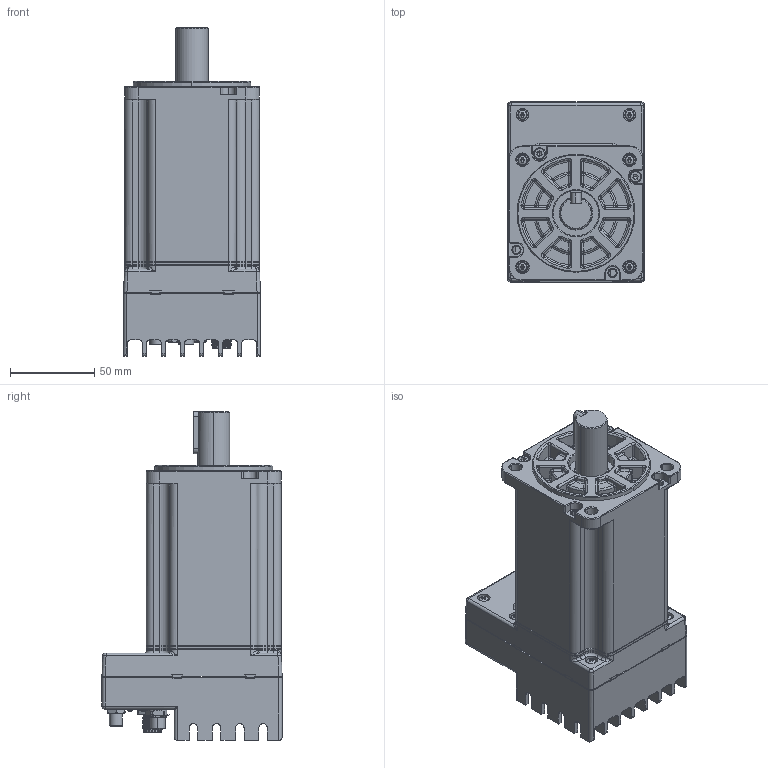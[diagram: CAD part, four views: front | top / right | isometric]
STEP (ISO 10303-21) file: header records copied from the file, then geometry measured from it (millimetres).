
FILE_DESCRIPTION (( 'STEP AP214' ), '1' );
FILE_NAME ('IM1-80MX3X5XX20B00.STEP', '2024-01-09T07:52:20', ( '' ), ( '' ), 'SwSTEP 2.0', 'SolidWorks 2020', '' );
FILE_SCHEMA (( 'AUTOMOTIVE_DESIGN' ));
Length unit declared in the file: millimetre
Products named in the file (1): IM1-80MX3X5XX20B00
Bounding box: 81.3 x 107 x 195.25 mm (x, y, z)
Surface area: 87895.8 mm2 (no closed solid volume)
Topology: 0 solids, 72 shells, 1393 faces, 5256 edges, 3860 vertices
Faces by surface type: cylinder 517, plane 503, cone 137, torus 131, bspline 60, sphere 45
Full cylindrical faces by diameter (mm): 0.5 x12, 1.5 x4, 1.6 x1, 7 x2, 7.5 x6, 9.9 x1, 10 x1, 10.7 x2, 13.5 x2, 18 x1
Entity records: 81080 total; most frequent: CARTESIAN_POINT 22851, DIRECTION 8864, ORIENTED_EDGE 8701, EDGE_CURVE 5121, VERTEX_POINT 3842, AXIS2_PLACEMENT_3D 3361, VECTOR 2142, LINE 2142
